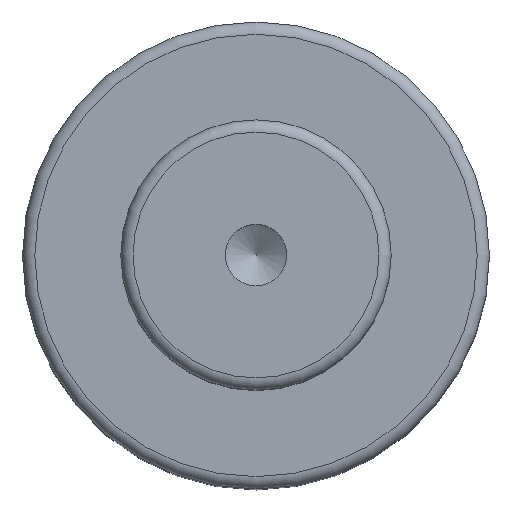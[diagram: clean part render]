
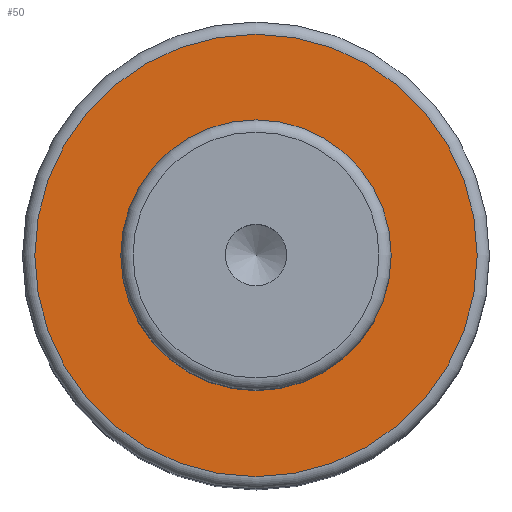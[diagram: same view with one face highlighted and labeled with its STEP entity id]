
A CAD part, top view. The second image highlights one B-rep face of the part: STEP entity #50.
In plain terms, the highlighted planar face has unit normal (0, 0, 1).
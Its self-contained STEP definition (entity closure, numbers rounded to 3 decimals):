
#40=PLANE('',#179);
#50=ADVANCED_FACE('',(#72,#73),#40,.F.);
#72=FACE_BOUND('',#96,.T.);
#73=FACE_BOUND('',#97,.T.);
#96=EDGE_LOOP('',(#118));
#97=EDGE_LOOP('',(#119));
#118=ORIENTED_EDGE('',*,*,#149,.F.);
#119=ORIENTED_EDGE('',*,*,#148,.T.);
#135=VERTEX_POINT('',#256);
#136=VERTEX_POINT('',#259);
#148=EDGE_CURVE('',#135,#135,#159,.T.);
#149=EDGE_CURVE('',#136,#136,#160,.T.);
#159=CIRCLE('',#176,11.);
#160=CIRCLE('',#178,18.);
#176=AXIS2_PLACEMENT_3D('',#255,#213,#214);
#178=AXIS2_PLACEMENT_3D('',#258,#217,#218);
#179=AXIS2_PLACEMENT_3D('',#260,#219,#220);
#213=DIRECTION('',(0.,0.,-1.));
#214=DIRECTION('',(-1.,0.,0.));
#217=DIRECTION('',(0.,0.,-1.));
#218=DIRECTION('',(-1.,0.,0.));
#219=DIRECTION('',(0.,0.,-1.));
#220=DIRECTION('',(-1.,0.,0.));
#255=CARTESIAN_POINT('',(0.,0.,49.));
#256=CARTESIAN_POINT('',(-11.,0.,49.));
#258=CARTESIAN_POINT('',(0.,0.,49.));
#259=CARTESIAN_POINT('',(-18.,0.,49.));
#260=CARTESIAN_POINT('',(11.,0.,49.));
